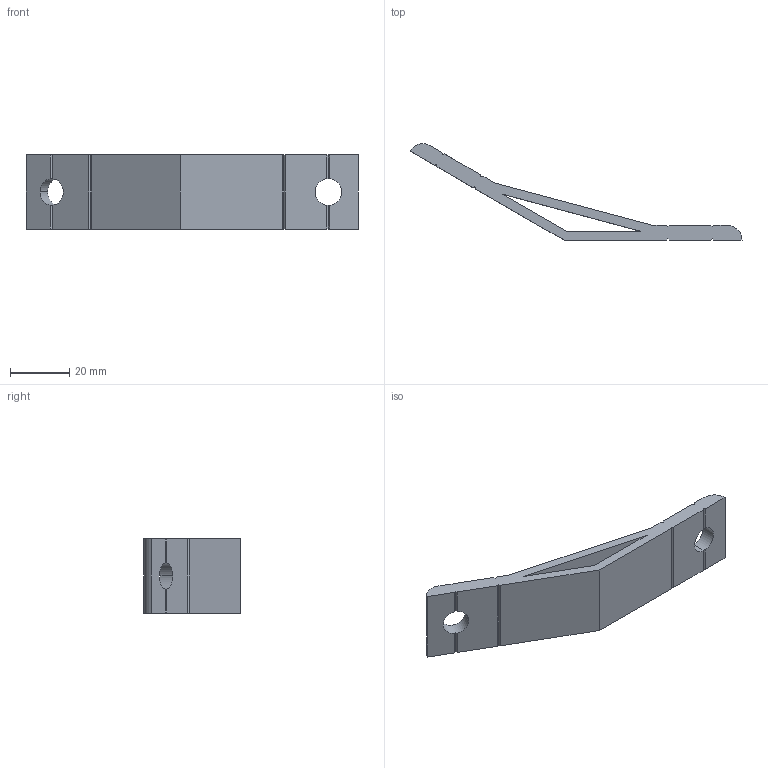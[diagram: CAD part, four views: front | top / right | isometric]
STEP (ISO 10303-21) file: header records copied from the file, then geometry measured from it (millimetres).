
FILE_DESCRIPTION (( 'STEP AP203' ), '1' );
FILE_NAME ('WA25150-6.STEP', '2024-02-17T07:49:47', ( '' ), ( '' ), 'SwSTEP 2.0', 'SolidWorks 2022', '' );
FILE_SCHEMA (( 'CONFIG_CONTROL_DESIGN' ));
Length unit declared in the file: millimetre
Products named in the file (1): WA25150-6
Bounding box: 111.96 x 32.5 x 25 mm (x, y, z)
Volume: 15089.9 mm3; surface area: 9836 mm2
Topology: 1 solids, 1 shells, 48 faces, 146 edges, 96 vertices
Faces by surface type: plane 42, cylinder 6
Entity records: 1703 total; most frequent: CARTESIAN_POINT 339, ORIENTED_EDGE 292, DIRECTION 244, EDGE_CURVE 146, LINE 114, VECTOR 114, VERTEX_POINT 96, AXIS2_PLACEMENT_3D 65
